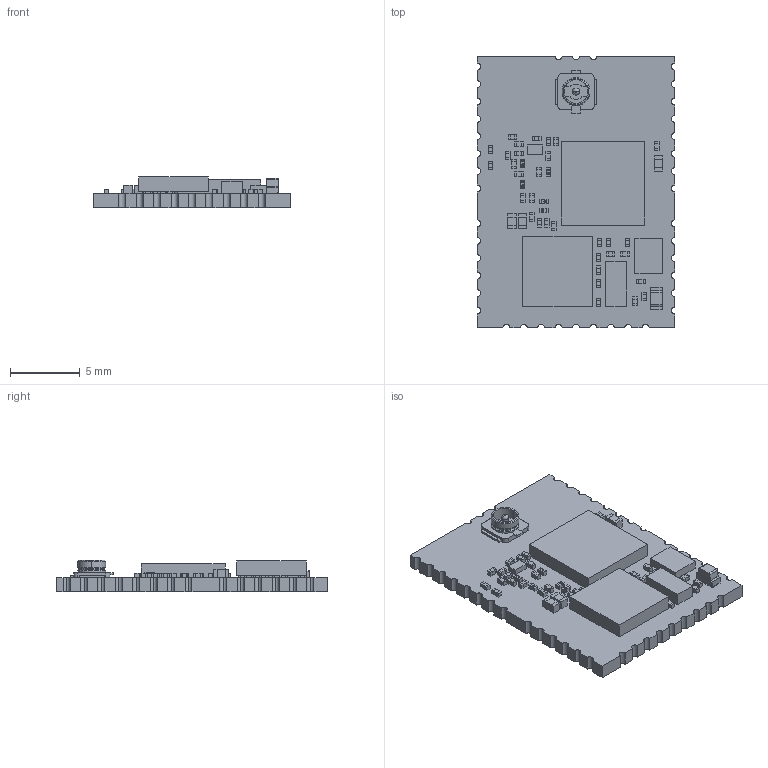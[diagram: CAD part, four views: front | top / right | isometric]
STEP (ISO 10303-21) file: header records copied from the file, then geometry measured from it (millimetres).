
FILE_DESCRIPTION(('Open CASCADE Model'),'2;1');
FILE_NAME('Open CASCADE Shape Model','2019-12-09T15:22:11',('Author'),( 'Open CASCADE'),'Open CASCADE STEP processor 6.8','Open CASCADE 6.8' ,'Unknown');
FILE_SCHEMA(('AUTOMOTIVE_DESIGN { 1 0 10303 214 1 1 1 1 }'));
Length unit declared in the file: millimetre
Products named in the file (80): PCB; Board; Open CASCADE STEP translator 6.8 2.1.1; Open CASCADE STEP translator 6.8 2.1.1.1; J1; U.FL-R-SMT-1; R202; 7818461024; Extruded; 7818461104; 7818449424; R201; D200; AP1608; L103; LQP03TN_06-62; C100; 7818456304; 7818453824; U200; 7818445824; R100; C122; R206; C210; 7818457344; C209; C208; C201; L102; L101; L100; C111; C110; C109; C106; C105; U100; 7818448384; X100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
Assembly tree (180 placements, depth 4):
  PCB
    Board
      Open CASCADE STEP translator 6.8 2.1.1
        Open CASCADE STEP translator 6.8 2.1.1.1
    J1
      U.FL-R-SMT-1
    R202
      7818461024
        Extruded
      7818461104
        Extruded
      7818449424
        Extruded
    R201
      7818461024
        Extruded
      7818461104
        Extruded
      7818449424
        Extruded
    D200
      AP1608
    L103
      LQP03TN_06-62
    C100
      7818456304
        Extruded
      7818453824  x2
        Extruded
    U200
      7818445824
        Extruded
    R100
      7818461024
        Extruded
      7818461104
        Extruded
      7818449424
        Extruded
    C122
      7818456304
        Extruded
      7818453824  x2
        Extruded
    R206
      7818461024
        Extruded
      7818461104
        Extruded
      7818449424
        Extruded
    C210
      7818456304
        Extruded
      7818457344  x2
        Extruded
    C209
      7818456304
        Extruded
      7818457344  x2
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Bounding box: 14.2 x 19.5 x 2.28 mm (x, y, z)
Volume: 356.1 mm3; surface area: 943.3 mm2
Topology: 142 solids, 142 shells, 1356 faces, 3097 edges, 2059 vertices
Faces by surface type: plane 1145, bspline 116, cylinder 85, cone 8, revolution 2
Entity records: 29004 total; most frequent: CARTESIAN_POINT 9807, ORIENTED_EDGE 3142, DIRECTION 2855, EDGE_CURVE 1571, LINE 1171, VECTOR 1171, VERTEX_POINT 1043, AXIS2_PLACEMENT_3D 841
